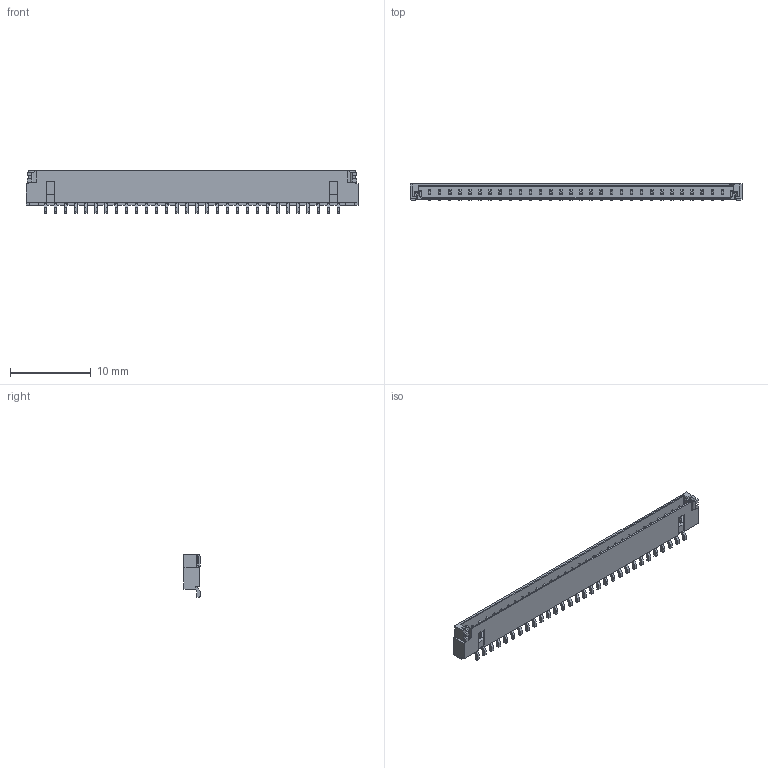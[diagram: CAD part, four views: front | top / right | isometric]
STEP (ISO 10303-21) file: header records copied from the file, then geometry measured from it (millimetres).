
FILE_DESCRIPTION(('OneSpaceDesigner STEP Export'),'2;1');
FILE_NAME('S-88266-30xx-xxx-xx.stp','2009-07-22T13:58:22',(''),(''),'OneSpace Designer STEP processor for AP214 (Solid Model)','OneSpace Designer 13.01 05-Feb-2005 (C) CoCreate Software GmbH','');
FILE_SCHEMA(('AUTOMOTIVE_DESIGN { 1 0 10303 214 1 1 1 1 }'));
Length unit declared in the file: millimetre
Products named in the file (1): 88266-30XX-XXX-XX
Bounding box: 41.1 x 1.99 x 5.25 mm (x, y, z)
Volume: 170 mm3; surface area: 1055.3 mm2
Topology: 1 solids, 1 shells, 1285 faces, 4007 edges, 2600 vertices
Faces by surface type: plane 1191, cylinder 94
Entity records: 43877 total; most frequent: ORIENTED_EDGE 8014, CARTESIAN_POINT 7893, DIRECTION 6769, EDGE_CURVE 4007, VECTOR 3817, LINE 3817, VERTEX_POINT 2600, AXIS2_PLACEMENT_3D 1476
